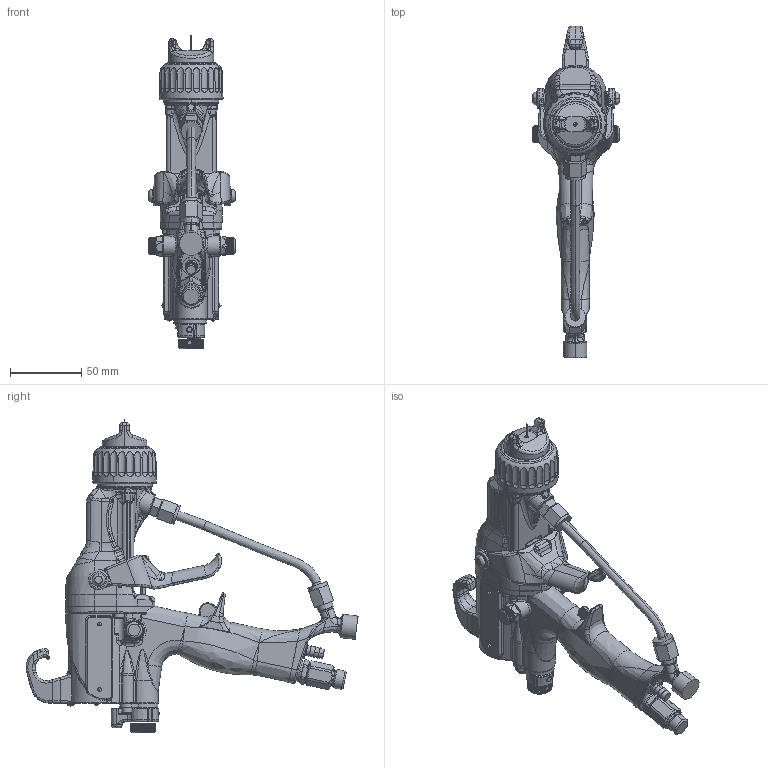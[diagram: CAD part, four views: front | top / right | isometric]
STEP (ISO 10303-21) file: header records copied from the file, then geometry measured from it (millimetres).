
FILE_DESCRIPTION((''),'2;1');
FILE_NAME('L40T71-EN-C_PRT','2020-05-18T18:13:47',('qusrh3'),(''),'CREO PARAMETRIC BY PTC INC, 2019030','CREO PARAMETRIC BY PTC INC, 2019030','');
FILE_SCHEMA(('CONFIG_CONTROL_DESIGN'));
Products named in the file (1): L40T71-EN-C_PRT
Bounding box: 60.96 x 233.22 x 220.34 mm (x, y, z)
Surface area: 83637.1 mm2 (no closed solid volume)
Topology: 0 solids, 62 shells, 2611 faces, 7117 edges, 4482 vertices
Faces by surface type: bspline 828, cylinder 667, plane 584, torus 237, cone 230, sphere 59, extrusion 6
Entity records: 126599 total; most frequent: CARTESIAN_POINT 69593, ORIENTED_EDGE 12875, DIRECTION 9835, EDGE_CURVE 7110, VERTEX_POINT 4482, AXIS2_PLACEMENT_3D 3979, B_SPLINE_CURVE_WITH_KNOTS 3043, EDGE_LOOP 2611
